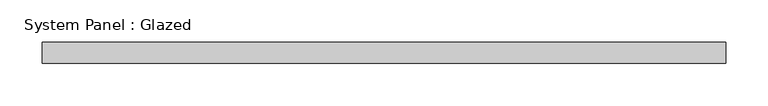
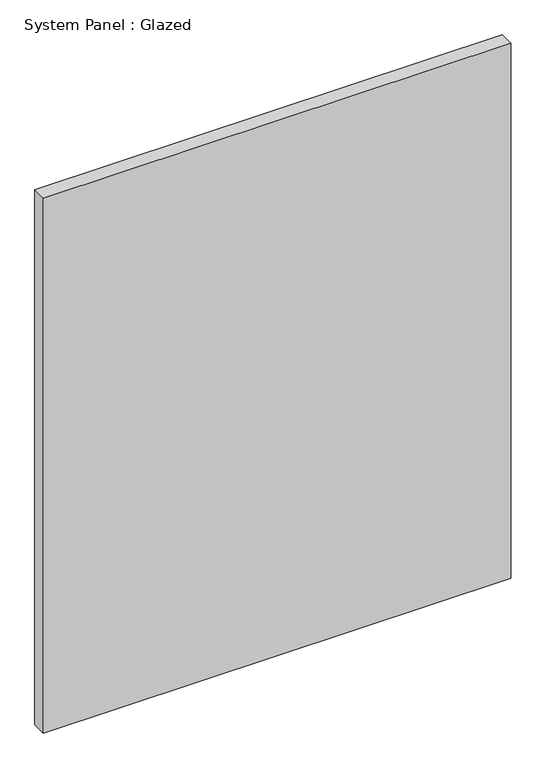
"""IFC4 building model written with IfcOpenShell, lengths in millimetres: plate geometry, System Panel : Glazed."""

from ifc_helpers import new_model, si_unit, origin, origin_with_axes, place, context, project, spatial, polyline, outline, extrude, source, transform, mapped, element, save


def system_panel_glazed_26a3acbd(model_context):
    return source(origin(), model_context, "Body", "SweptSolid", [
        extrude(outline(polyline([(404.8828858, 24.5), (-404.8828858, 24.5), (-404.8828858, 49.5), (404.8828858, 49.5), (404.8828858, 24.5)])), origin_with_axes(), (0.0, 0.0, 1.0), 978.8970931),
    ])


if __name__ == "__main__":
    model = new_model("IFC4")
    model_context = context("Model", 3, world=origin())
    ifc_project = project(units=[si_unit("LENGTHUNIT", "METRE", prefix="MILLI")], contexts=[model_context])
    site = spatial("IfcSite", under=ifc_project)
    building = spatial("IfcBuilding", under=site)
    placement = place(None, origin())
    system_panel_glazed_shape = system_panel_glazed_26a3acbd(model_context)
    element("IfcPlate", 1, ObjectType="System Panel : Glazed", at=placement, inside=building, context=model_context, shape_type="MappedRepresentation", body=[
        mapped(system_panel_glazed_shape, transform((0.0, 0.0, 0.0), x_axis=(1.0, 0.0, 0.0), y_axis=(0.0, 1.0, 0.0), z_axis=(0.0, 0.0, 1.0))),
    ])
    save(model, "model.ifc")
